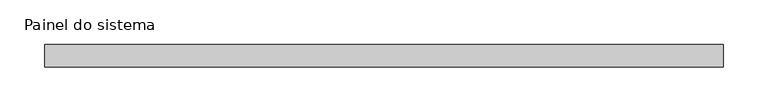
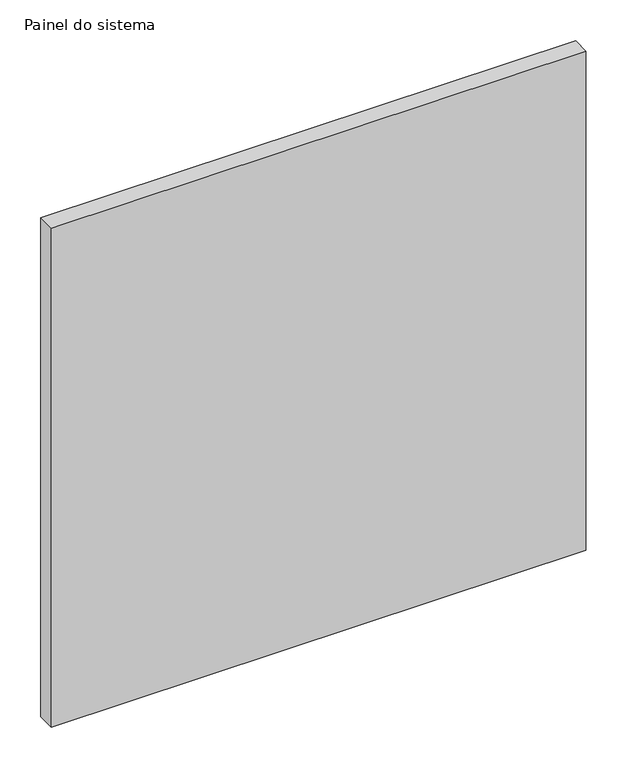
"""IFC4 building model written with IfcOpenShell, lengths in millimetres: plate geometry, Painel do sistema : Envidraçado."""

from ifc_helpers import new_model, si_unit, origin, origin_with_axes, place, context, project, spatial, polyline, outline, extrude, source, transform, mapped, element, save


def painel_do_sistema_9849e7e5(model_context):
    return source(origin(), model_context, "Body", "SweptSolid", [
        extrude(outline(polyline([(377.5, 24.5), (-377.5, 24.5), (-377.5, 49.5), (377.5, 49.5), (377.5, 24.5)])), origin_with_axes(), (0.0, 0.0, 1.0), 745.0),
    ])


if __name__ == "__main__":
    model = new_model("IFC4")
    model_context = context("Model", 3, world=origin())
    ifc_project = project(units=[si_unit("LENGTHUNIT", "METRE", prefix="MILLI")], contexts=[model_context])
    site = spatial("IfcSite", under=ifc_project)
    building = spatial("IfcBuilding", under=site)
    placement = place(None, origin())
    painel_do_sistema_shape = painel_do_sistema_9849e7e5(model_context)
    element("IfcPlate", 1, ObjectType="Painel do sistema : Envidraçado", at=placement, inside=building, context=model_context, shape_type="MappedRepresentation", body=[
        mapped(painel_do_sistema_shape, transform((0.0, 0.0, 0.0), x_axis=(1.0, 0.0, 0.0), y_axis=(0.0, 1.0, 0.0), z_axis=(0.0, 0.0, 1.0))),
    ])
    save(model, "model.ifc")
